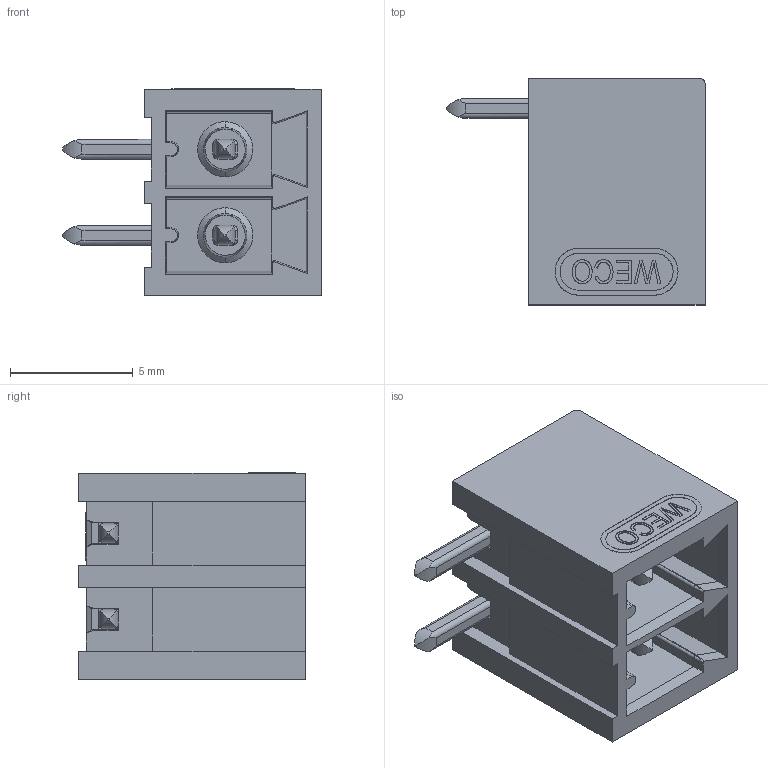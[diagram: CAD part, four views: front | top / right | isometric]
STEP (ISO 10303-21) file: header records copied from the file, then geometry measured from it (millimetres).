
FILE_DESCRIPTION (( 'STEP AP214' ), '1' );
FILE_NAME ('110-M-211-THR-02.STEP', '2007-11-20T17:11:28', ( 'weco' ), ( 'weco' ), 'SwSTEP 2.0', 'SolidWorks 2007', '' );
FILE_SCHEMA (( 'AUTOMOTIVE_DESIGN' ));
Length unit declared in the file: millimetre
Products named in the file (1): 110-M-211-THR-02
Bounding box: 10.5 x 9.2 x 8.42 mm (x, y, z)
Volume: 301.3 mm3; surface area: 787 mm2
Topology: 1 solids, 1 shells, 710 faces, 2009 edges, 1315 vertices
Faces by surface type: plane 607, cylinder 79, cone 16, bspline 8
Entity records: 24526 total; most frequent: CARTESIAN_POINT 7934, ORIENTED_EDGE 4018, DIRECTION 2541, EDGE_CURVE 2009, VERTEX_POINT 1315, LINE 1079, VECTOR 1079, B_SPLINE_CURVE_WITH_KNOTS 897
